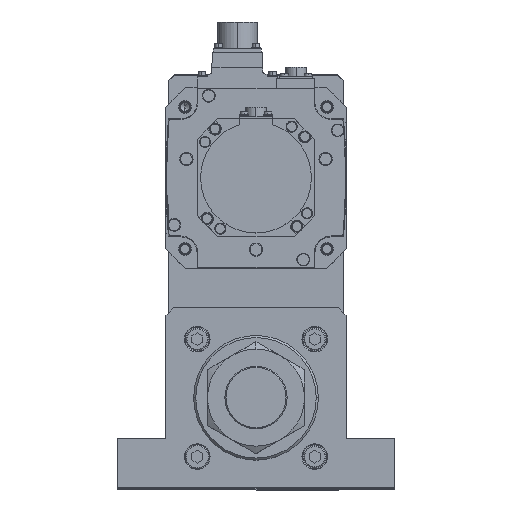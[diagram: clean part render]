
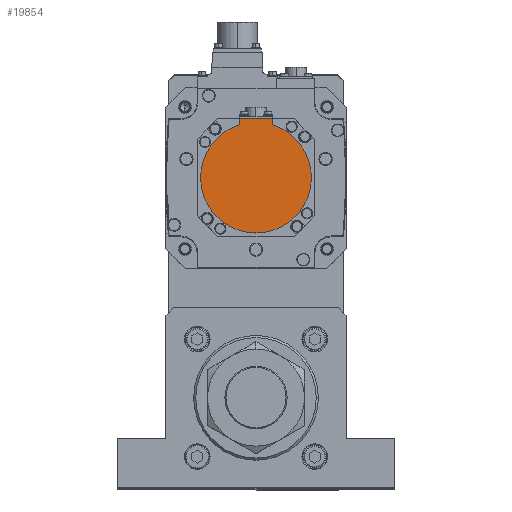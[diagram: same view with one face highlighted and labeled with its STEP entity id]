
A CAD part, top view. The second image highlights one B-rep face of the part: STEP entity #19854.
In plain terms, the highlighted planar face has unit normal (0, 0, 1) as drawn and (0, 0, -1) by its records, which use the part's own axes.
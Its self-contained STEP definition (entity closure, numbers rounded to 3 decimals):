
#183 = DIRECTION ( 'NONE',  ( 1., 0., 0. ) ) ;
#443 = EDGE_CURVE ( 'NONE', #11466, #21292, #5204, .T. ) ;
#2822 = DIRECTION ( 'NONE',  ( 0., 1., 0. ) ) ;
#5204 = CIRCLE ( 'NONE', #14288, 40. ) ;
#5734 = ORIENTED_EDGE ( 'NONE', *, *, #29788, .T. ) ;
#5932 = CARTESIAN_POINT ( 'NONE',  ( -12., -40.329, -181. ) ) ;
#6826 = DIRECTION ( 'NONE',  ( 0., 1., 0. ) ) ;
#7275 = CARTESIAN_POINT ( 'NONE',  ( 0., 0., -181. ) ) ;
#7537 = DIRECTION ( 'NONE',  ( 0., 0., 1. ) ) ;
#10195 = VECTOR ( 'NONE', #2822, 1000. ) ;
#10850 = ORIENTED_EDGE ( 'NONE', *, *, #36993, .T. ) ;
#11118 = CARTESIAN_POINT ( 'NONE',  ( 12., -42.5, -181. ) ) ;
#11466 = VERTEX_POINT ( 'NONE', #13427 ) ;
#12950 = AXIS2_PLACEMENT_3D ( 'NONE', #31029, #7537, #13363 ) ;
#12966 = LINE ( 'NONE', #35372, #10195 ) ;
#13363 = DIRECTION ( 'NONE',  ( 1., 0., 0. ) ) ;
#13427 = CARTESIAN_POINT ( 'NONE',  ( 12., -38.158, -181. ) ) ;
#14288 = AXIS2_PLACEMENT_3D ( 'NONE', #35549, #17971, #26780 ) ;
#15697 = AXIS2_PLACEMENT_3D ( 'NONE', #7275, #21984, #24575 ) ;
#15747 = CIRCLE ( 'NONE', #15697, 40. ) ;
#16661 = ORIENTED_EDGE ( 'NONE', *, *, #443, .F. ) ;
#17489 = LINE ( 'NONE', #5932, #22122 ) ;
#17971 = DIRECTION ( 'NONE',  ( 0., 0., 1. ) ) ;
#17979 = FACE_OUTER_BOUND ( 'NONE', #27558, .T. ) ;
#19163 = EDGE_CURVE ( 'NONE', #31923, #11466, #12966, .T. ) ;
#19854 = ADVANCED_FACE ( 'NONE', ( #17979 ), #35208, .F. ) ;
#20209 = CARTESIAN_POINT ( 'NONE',  ( 40., 0., -181. ) ) ;
#20676 = VERTEX_POINT ( 'NONE', #28525 ) ;
#21018 = ORIENTED_EDGE ( 'NONE', *, *, #27093, .F. ) ;
#21020 = VERTEX_POINT ( 'NONE', #32639 ) ;
#21292 = VERTEX_POINT ( 'NONE', #20209 ) ;
#21662 = DIRECTION ( 'NONE',  ( -1., 0., 0. ) ) ;
#21984 = DIRECTION ( 'NONE',  ( 0., 0., 1. ) ) ;
#22122 = VECTOR ( 'NONE', #6826, 1000. ) ;
#22623 = VECTOR ( 'NONE', #21662, 1000. ) ;
#23570 = DIRECTION ( 'NONE',  ( 0., 0., 1. ) ) ;
#24251 = CARTESIAN_POINT ( 'NONE',  ( 0., -42.5, -181. ) ) ;
#24575 = DIRECTION ( 'NONE',  ( 1., 0., 0. ) ) ;
#25059 = AXIS2_PLACEMENT_3D ( 'NONE', #32597, #23570, #183 ) ;
#26780 = DIRECTION ( 'NONE',  ( 1., 0., 0. ) ) ;
#27093 = EDGE_CURVE ( 'NONE', #21020, #20676, #32207, .T. ) ;
#27558 = EDGE_LOOP ( 'NONE', ( #5734, #21018, #36116, #16661, #29351, #10850 ) ) ;
#28525 = CARTESIAN_POINT ( 'NONE',  ( -12., -38.158, -181. ) ) ;
#28735 = EDGE_CURVE ( 'NONE', #21292, #21020, #15747, .T. ) ;
#29351 = ORIENTED_EDGE ( 'NONE', *, *, #19163, .F. ) ;
#29788 = EDGE_CURVE ( 'NONE', #29814, #20676, #17489, .T. ) ;
#29814 = VERTEX_POINT ( 'NONE', #33035 ) ;
#31029 = CARTESIAN_POINT ( 'NONE',  ( 0., 0., -181. ) ) ;
#31923 = VERTEX_POINT ( 'NONE', #11118 ) ;
#32207 = CIRCLE ( 'NONE', #12950, 40. ) ;
#32597 = CARTESIAN_POINT ( 'NONE',  ( 0., -1.25, -181. ) ) ;
#32639 = CARTESIAN_POINT ( 'NONE',  ( -40., 0., -181. ) ) ;
#33035 = CARTESIAN_POINT ( 'NONE',  ( -12., -42.5, -181. ) ) ;
#35208 = PLANE ( 'NONE',  #25059 ) ;
#35372 = CARTESIAN_POINT ( 'NONE',  ( 12., -1.25, -181. ) ) ;
#35549 = CARTESIAN_POINT ( 'NONE',  ( 0., 0., -181. ) ) ;
#36116 = ORIENTED_EDGE ( 'NONE', *, *, #28735, .F. ) ;
#36993 = EDGE_CURVE ( 'NONE', #31923, #29814, #38327, .T. ) ;
#38327 = LINE ( 'NONE', #24251, #22623 ) ;
